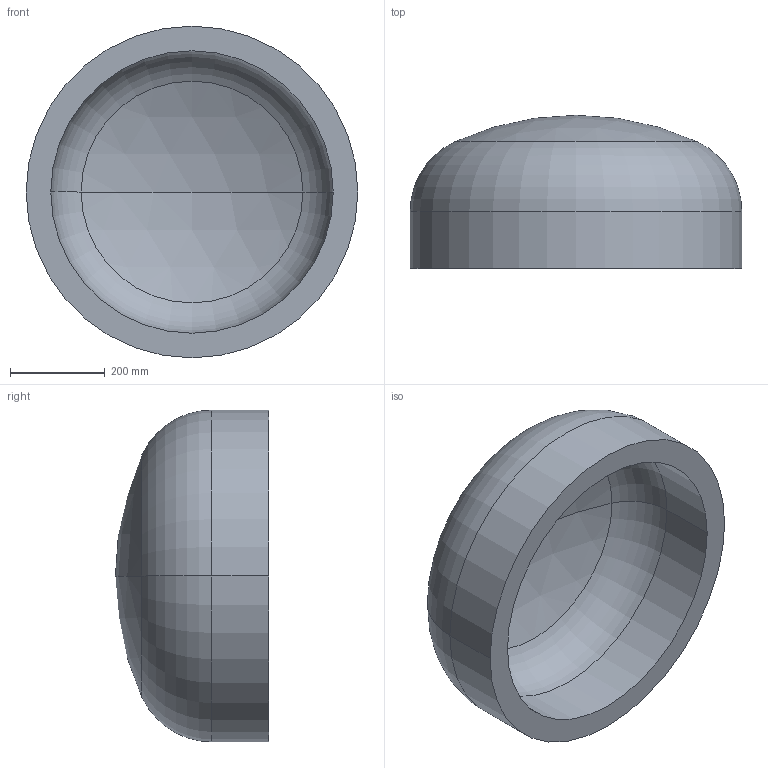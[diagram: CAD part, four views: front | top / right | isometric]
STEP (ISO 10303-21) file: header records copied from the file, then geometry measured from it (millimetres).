
FILE_DESCRIPTION (( 'STEP AP203' ), '1' );
FILE_NAME ('DIN 28013 Korbbogenform_-_Boden DIN 28013 - 700 x 120 - I - s=52.step', '2016-07-01T08:08:58', ( '' ), ( '' ), 'SwSTEP 2.0', 'SolidWorks 2013', '' );
FILE_SCHEMA (( 'CONFIG_CONTROL_DESIGN' ));
Length unit declared in the file: millimetre
Products named in the file (1): DIN 28013 Korbbogenform_-_Boden DIN 28013 - 700 x 120 - I - s=52
Bounding box: 700 x 323.15 x 700 mm (x, y, z)
Volume: 38049168.7 mm3; surface area: 1574951.7 mm2
Topology: 1 solids, 1 shells, 13 faces, 24 edges, 14 vertices
Faces by surface type: torus 4, cylinder 4, sphere 4, plane 1
Entity records: 407 total; most frequent: DIRECTION 72, CARTESIAN_POINT 52, ORIENTED_EDGE 48, AXIS2_PLACEMENT_3D 34, EDGE_CURVE 24, CIRCLE 20, EDGE_LOOP 14, VERTEX_POINT 14
